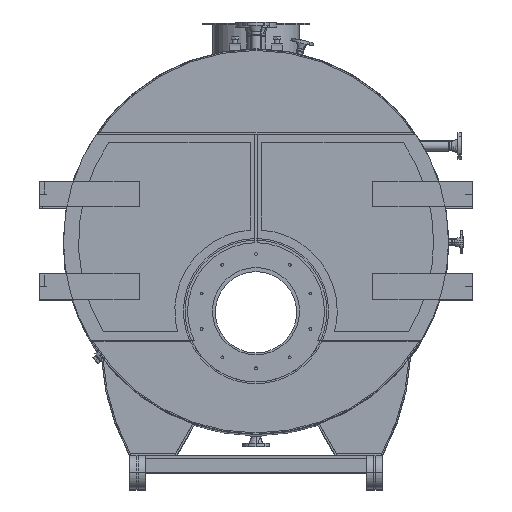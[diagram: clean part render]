
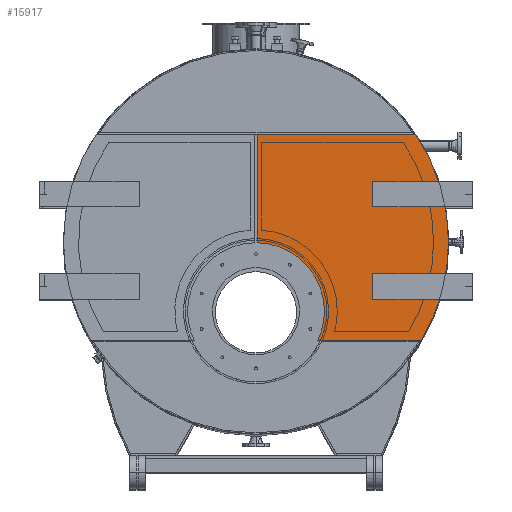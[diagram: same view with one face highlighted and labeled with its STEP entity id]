
A CAD part, top view. The second image highlights one B-rep face of the part: STEP entity #15917.
In plain terms, the highlighted planar face has unit normal (0, 0, 1).
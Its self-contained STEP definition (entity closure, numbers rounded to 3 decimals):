
#463 = EDGE_CURVE ( 'NONE', #8684, #2920, #6166, .T. ) ;
#1924 = ORIENTED_EDGE ( 'NONE', *, *, #32600, .F. ) ;
#2040 = CARTESIAN_POINT ( 'NONE',  ( 941.581, 1972.869, 0. ) ) ;
#2694 = CARTESIAN_POINT ( 'NONE',  ( 936.581, 1132.395, 0. ) ) ;
#2810 = DIRECTION ( 'NONE',  ( 1., 0., 0. ) ) ;
#2920 = VERTEX_POINT ( 'NONE', #2040 ) ;
#3712 = AXIS2_PLACEMENT_3D ( 'NONE', #40110, #23238, #33130 ) ;
#5495 = ORIENTED_EDGE ( 'NONE', *, *, #35723, .T. ) ;
#6166 = LINE ( 'NONE', #30867, #9165 ) ;
#6819 = CARTESIAN_POINT ( 'NONE',  ( 1261.581, 1132.395, 0. ) ) ;
#6909 = DIRECTION ( 'NONE',  ( 0., 0., 1. ) ) ;
#8035 = CARTESIAN_POINT ( 'NONE',  ( 941.581, 1457.356, 0. ) ) ;
#8151 = CIRCLE ( 'NONE', #21090, 325. ) ;
#8684 = VERTEX_POINT ( 'NONE', #23961 ) ;
#8717 = DIRECTION ( 'NONE',  ( 0., 0., 1. ) ) ;
#9165 = VECTOR ( 'NONE', #23686, 1000. ) ;
#9303 = CIRCLE ( 'NONE', #24358, 325. ) ;
#9808 = VERTEX_POINT ( 'NONE', #44099 ) ;
#10372 = ORIENTED_EDGE ( 'NONE', *, *, #463, .T. ) ;
#11198 = ORIENTED_EDGE ( 'NONE', *, *, #41229, .T. ) ;
#11756 = EDGE_CURVE ( 'NONE', #12779, #8684, #22760, .T. ) ;
#12328 = CARTESIAN_POINT ( 'NONE',  ( 936.581, 1462.395, 0. ) ) ;
#12647 = AXIS2_PLACEMENT_3D ( 'NONE', #12328, #8717, #29352 ) ;
#12779 = VERTEX_POINT ( 'NONE', #13643 ) ;
#12825 = DIRECTION ( 'NONE',  ( 0., 0., 1. ) ) ;
#13643 = CARTESIAN_POINT ( 'NONE',  ( 1851.581, 1462.395, 0. ) ) ;
#14092 = EDGE_CURVE ( 'NONE', #35759, #37607, #9303, .T. ) ;
#15491 = VERTEX_POINT ( 'NONE', #26228 ) ;
#15917 = ADVANCED_FACE ( 'NONE', ( #43478 ), #26839, .T. ) ;
#16364 = AXIS2_PLACEMENT_3D ( 'NONE', #30499, #6909, #20636 ) ;
#16642 = CARTESIAN_POINT ( 'NONE',  ( 936.581, 1132.395, 0. ) ) ;
#20636 = DIRECTION ( 'NONE',  ( 1., 0., 0. ) ) ;
#21090 = AXIS2_PLACEMENT_3D ( 'NONE', #16642, #12825, #44024 ) ;
#21835 = VECTOR ( 'NONE', #2810, 1000. ) ;
#22760 = CIRCLE ( 'NONE', #16364, 915. ) ;
#23099 = CARTESIAN_POINT ( 'NONE',  ( 941.581, 1972.869, 0. ) ) ;
#23238 = DIRECTION ( 'NONE',  ( 0., 0., 1. ) ) ;
#23686 = DIRECTION ( 'NONE',  ( -1., 0., 0. ) ) ;
#23961 = CARTESIAN_POINT ( 'NONE',  ( 1695.95, 1972.869, 0. ) ) ;
#24167 = ORIENTED_EDGE ( 'NONE', *, *, #14092, .F. ) ;
#24358 = AXIS2_PLACEMENT_3D ( 'NONE', #2694, #44236, #27161 ) ;
#26228 = CARTESIAN_POINT ( 'NONE',  ( 1230.243, 993.155, 0. ) ) ;
#26839 = PLANE ( 'NONE',  #3712 ) ;
#27161 = DIRECTION ( 'NONE',  ( 1., 0., 0. ) ) ;
#28419 = ORIENTED_EDGE ( 'NONE', *, *, #38179, .T. ) ;
#29352 = DIRECTION ( 'NONE',  ( 1., 0., 0. ) ) ;
#30499 = CARTESIAN_POINT ( 'NONE',  ( 936.581, 1462.395, 0. ) ) ;
#30867 = CARTESIAN_POINT ( 'NONE',  ( 1695.95, 1972.869, 0. ) ) ;
#32600 = EDGE_CURVE ( 'NONE', #15491, #35759, #8151, .T. ) ;
#33130 = DIRECTION ( 'NONE',  ( 1., 0., 0. ) ) ;
#34905 = EDGE_LOOP ( 'NONE', ( #11198, #40030, #10372, #28419, #24167, #1924, #5495 ) ) ;
#35723 = EDGE_CURVE ( 'NONE', #15491, #9808, #40764, .T. ) ;
#35759 = VERTEX_POINT ( 'NONE', #6819 ) ;
#37006 = CIRCLE ( 'NONE', #12647, 915. ) ;
#37607 = VERTEX_POINT ( 'NONE', #8035 ) ;
#38179 = EDGE_CURVE ( 'NONE', #2920, #37607, #40191, .T. ) ;
#38207 = VECTOR ( 'NONE', #39966, 1000. ) ;
#39966 = DIRECTION ( 'NONE',  ( 0., -1., 0. ) ) ;
#40030 = ORIENTED_EDGE ( 'NONE', *, *, #11756, .T. ) ;
#40110 = CARTESIAN_POINT ( 'NONE',  ( 936.581, 1462.395, 0. ) ) ;
#40191 = LINE ( 'NONE', #23099, #38207 ) ;
#40764 = LINE ( 'NONE', #40989, #21835 ) ;
#40989 = CARTESIAN_POINT ( 'NONE',  ( 1230.243, 993.155, 0. ) ) ;
#41229 = EDGE_CURVE ( 'NONE', #9808, #12779, #37006, .T. ) ;
#43478 = FACE_OUTER_BOUND ( 'NONE', #34905, .T. ) ;
#44024 = DIRECTION ( 'NONE',  ( 1., 0., 0. ) ) ;
#44099 = CARTESIAN_POINT ( 'NONE',  ( 1722.099, 993.155, 0. ) ) ;
#44236 = DIRECTION ( 'NONE',  ( 0., 0., 1. ) ) ;
